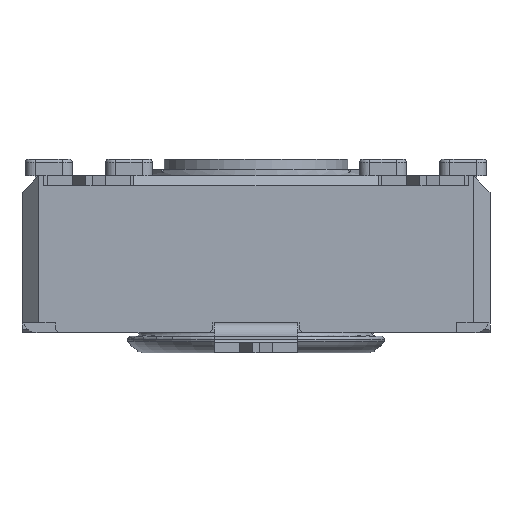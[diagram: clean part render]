
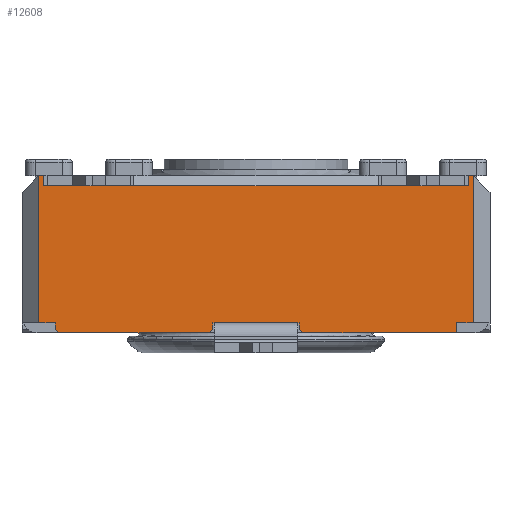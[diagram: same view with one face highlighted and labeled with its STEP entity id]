
A CAD part, front view. The second image highlights one B-rep face of the part: STEP entity #12608.
In plain terms, the highlighted planar face has unit normal (0, -1, 0).
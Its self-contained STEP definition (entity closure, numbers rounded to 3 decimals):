
#656=FACE_OUTER_BOUND('',#1327,.T.);
#1327=EDGE_LOOP('',(#8391,#8392,#8393,#8394,#8395,#8396,#8397,#8398,#8399,
#8400,#8401,#8402,#8403,#8404,#8405,#8406,#8407,#8408,#8409,#8410,#8411,
#8412,#8413,#8414,#8415,#8416,#8417));
#2018=LINE('',#17944,#3511);
#2031=LINE('',#17978,#3524);
#2036=LINE('',#17988,#3529);
#2114=LINE('',#18149,#3607);
#2139=LINE('',#18200,#3632);
#2165=LINE('',#18264,#3658);
#2166=LINE('',#18266,#3659);
#2167=LINE('',#18268,#3660);
#2168=LINE('',#18269,#3661);
#2169=LINE('',#18271,#3662);
#2170=LINE('',#18273,#3663);
#2171=LINE('',#18275,#3664);
#2172=LINE('',#18277,#3665);
#2173=LINE('',#18278,#3666);
#2174=LINE('',#18280,#3667);
#2175=LINE('',#18282,#3668);
#2176=LINE('',#18284,#3669);
#2177=LINE('',#18286,#3670);
#2178=LINE('',#18288,#3671);
#2179=LINE('',#18290,#3672);
#2180=LINE('',#18292,#3673);
#2181=LINE('',#18294,#3674);
#2182=LINE('',#18296,#3675);
#2183=LINE('',#18297,#3676);
#2184=LINE('',#18299,#3677);
#2185=LINE('',#18301,#3678);
#2186=LINE('',#18302,#3679);
#3511=VECTOR('',#14397,10.);
#3524=VECTOR('',#14436,10.);
#3529=VECTOR('',#14441,10.);
#3607=VECTOR('',#14545,10.);
#3632=VECTOR('',#14586,10.);
#3658=VECTOR('',#14634,10.);
#3659=VECTOR('',#14635,10.);
#3660=VECTOR('',#14636,10.);
#3661=VECTOR('',#14637,10.);
#3662=VECTOR('',#14638,10.);
#3663=VECTOR('',#14639,10.);
#3664=VECTOR('',#14640,10.);
#3665=VECTOR('',#14641,10.);
#3666=VECTOR('',#14642,10.);
#3667=VECTOR('',#14643,10.);
#3668=VECTOR('',#14644,10.);
#3669=VECTOR('',#14645,10.);
#3670=VECTOR('',#14646,10.);
#3671=VECTOR('',#14647,10.);
#3672=VECTOR('',#14648,10.);
#3673=VECTOR('',#14649,10.);
#3674=VECTOR('',#14650,10.);
#3675=VECTOR('',#14651,10.);
#3676=VECTOR('',#14652,10.);
#3677=VECTOR('',#14653,10.);
#3678=VECTOR('',#14654,10.);
#3679=VECTOR('',#14655,10.);
#4991=VERTEX_POINT('',#17922);
#4999=VERTEX_POINT('',#17943);
#5007=VERTEX_POINT('',#17977);
#5011=VERTEX_POINT('',#17985);
#5012=VERTEX_POINT('',#17987);
#5081=VERTEX_POINT('',#18146);
#5082=VERTEX_POINT('',#18148);
#5099=VERTEX_POINT('',#18197);
#5100=VERTEX_POINT('',#18199);
#5127=VERTEX_POINT('',#18263);
#5128=VERTEX_POINT('',#18265);
#5129=VERTEX_POINT('',#18267);
#5130=VERTEX_POINT('',#18270);
#5131=VERTEX_POINT('',#18272);
#5132=VERTEX_POINT('',#18274);
#5133=VERTEX_POINT('',#18276);
#5134=VERTEX_POINT('',#18279);
#5135=VERTEX_POINT('',#18281);
#5136=VERTEX_POINT('',#18283);
#5137=VERTEX_POINT('',#18285);
#5138=VERTEX_POINT('',#18287);
#5139=VERTEX_POINT('',#18289);
#5140=VERTEX_POINT('',#18291);
#5141=VERTEX_POINT('',#18293);
#5142=VERTEX_POINT('',#18295);
#5143=VERTEX_POINT('',#18298);
#5144=VERTEX_POINT('',#18300);
#6238=EDGE_CURVE('',#4991,#4999,#2018,.T.);
#6255=EDGE_CURVE('',#5007,#4991,#2031,.T.);
#6260=EDGE_CURVE('',#5012,#5011,#2036,.T.);
#6340=EDGE_CURVE('',#5082,#5081,#2114,.T.);
#6365=EDGE_CURVE('',#5100,#5099,#2139,.T.);
#6397=EDGE_CURVE('',#5081,#5127,#2165,.T.);
#6398=EDGE_CURVE('',#5127,#5128,#2166,.T.);
#6399=EDGE_CURVE('',#5128,#5129,#2167,.T.);
#6400=EDGE_CURVE('',#5012,#5129,#2168,.T.);
#6401=EDGE_CURVE('',#5011,#5130,#2169,.T.);
#6402=EDGE_CURVE('',#5131,#5130,#2170,.T.);
#6403=EDGE_CURVE('',#5131,#5132,#2171,.T.);
#6404=EDGE_CURVE('',#5133,#5132,#2172,.T.);
#6405=EDGE_CURVE('',#5007,#5133,#2173,.T.);
#6406=EDGE_CURVE('',#4999,#5134,#2174,.T.);
#6407=EDGE_CURVE('',#5134,#5135,#2175,.T.);
#6408=EDGE_CURVE('',#5136,#5135,#2176,.T.);
#6409=EDGE_CURVE('',#5136,#5137,#2177,.T.);
#6410=EDGE_CURVE('',#5137,#5138,#2178,.T.);
#6411=EDGE_CURVE('',#5138,#5139,#2179,.T.);
#6412=EDGE_CURVE('',#5140,#5139,#2180,.T.);
#6413=EDGE_CURVE('',#5140,#5141,#2181,.T.);
#6414=EDGE_CURVE('',#5141,#5142,#2182,.T.);
#6415=EDGE_CURVE('',#5142,#5100,#2183,.T.);
#6416=EDGE_CURVE('',#5099,#5143,#2184,.T.);
#6417=EDGE_CURVE('',#5144,#5143,#2185,.T.);
#6418=EDGE_CURVE('',#5144,#5082,#2186,.T.);
#8391=ORIENTED_EDGE('',*,*,#6340,.T.);
#8392=ORIENTED_EDGE('',*,*,#6397,.T.);
#8393=ORIENTED_EDGE('',*,*,#6398,.T.);
#8394=ORIENTED_EDGE('',*,*,#6399,.T.);
#8395=ORIENTED_EDGE('',*,*,#6400,.F.);
#8396=ORIENTED_EDGE('',*,*,#6260,.T.);
#8397=ORIENTED_EDGE('',*,*,#6401,.T.);
#8398=ORIENTED_EDGE('',*,*,#6402,.F.);
#8399=ORIENTED_EDGE('',*,*,#6403,.T.);
#8400=ORIENTED_EDGE('',*,*,#6404,.F.);
#8401=ORIENTED_EDGE('',*,*,#6405,.F.);
#8402=ORIENTED_EDGE('',*,*,#6255,.T.);
#8403=ORIENTED_EDGE('',*,*,#6238,.T.);
#8404=ORIENTED_EDGE('',*,*,#6406,.T.);
#8405=ORIENTED_EDGE('',*,*,#6407,.T.);
#8406=ORIENTED_EDGE('',*,*,#6408,.F.);
#8407=ORIENTED_EDGE('',*,*,#6409,.T.);
#8408=ORIENTED_EDGE('',*,*,#6410,.T.);
#8409=ORIENTED_EDGE('',*,*,#6411,.T.);
#8410=ORIENTED_EDGE('',*,*,#6412,.F.);
#8411=ORIENTED_EDGE('',*,*,#6413,.T.);
#8412=ORIENTED_EDGE('',*,*,#6414,.T.);
#8413=ORIENTED_EDGE('',*,*,#6415,.T.);
#8414=ORIENTED_EDGE('',*,*,#6365,.T.);
#8415=ORIENTED_EDGE('',*,*,#6416,.T.);
#8416=ORIENTED_EDGE('',*,*,#6417,.F.);
#8417=ORIENTED_EDGE('',*,*,#6418,.T.);
#11889=PLANE('',#13325);
#12608=ADVANCED_FACE('',(#656),#11889,.T.);
#13325=AXIS2_PLACEMENT_3D('',#18262,#14632,#14633);
#14397=DIRECTION('',(1.,0.,0.));
#14436=DIRECTION('',(1.,0.,0.));
#14441=DIRECTION('',(1.,0.,0.));
#14545=DIRECTION('',(-1.,0.,0.));
#14586=DIRECTION('',(-1.,0.,0.));
#14632=DIRECTION('center_axis',(0.,-1.,0.));
#14633=DIRECTION('ref_axis',(0.,0.,-1.));
#14634=DIRECTION('',(-1.,0.,0.));
#14635=DIRECTION('',(0.,0.,1.));
#14636=DIRECTION('',(-1.,0.,0.));
#14637=DIRECTION('',(0.,0.,1.));
#14638=DIRECTION('',(0.,0.,-1.));
#14639=DIRECTION('',(-0.707,0.,0.707));
#14640=DIRECTION('',(1.,0.,0.));
#14641=DIRECTION('',(-0.707,0.,-0.707));
#14642=DIRECTION('',(0.,0.,-1.));
#14643=DIRECTION('',(1.,0.,0.));
#14644=DIRECTION('',(0.,0.,-1.));
#14645=DIRECTION('',(-0.707,0.,0.707));
#14646=DIRECTION('',(1.,0.,0.));
#14647=DIRECTION('',(0.,0.,1.));
#14648=DIRECTION('',(1.,0.,0.));
#14649=DIRECTION('',(0.,0.,-1.));
#14650=DIRECTION('',(-1.,0.,0.));
#14651=DIRECTION('',(0.,0.,-1.));
#14652=DIRECTION('',(-1.,0.,0.));
#14653=DIRECTION('',(-1.,0.,0.));
#14654=DIRECTION('',(1.,0.,0.));
#14655=DIRECTION('',(-1.,0.,0.));
#17922=CARTESIAN_POINT('',(-8.717,-9.898,0.));
#17943=CARTESIAN_POINT('',(-6.217,-9.898,0.));
#17944=CARTESIAN_POINT('',(-14.467,-9.898,0.));
#17977=CARTESIAN_POINT('',(-8.767,-9.898,0.));
#17978=CARTESIAN_POINT('',(-14.467,-9.898,0.));
#17985=CARTESIAN_POINT('',(-13.467,-9.898,0.));
#17987=CARTESIAN_POINT('',(-13.967,-9.898,0.));
#17988=CARTESIAN_POINT('',(-7.245,-9.898,0.));
#18146=CARTESIAN_POINT('',(-13.717,-9.898,4.1));
#18148=CARTESIAN_POINT('',(-11.217,-9.898,4.1));
#18149=CARTESIAN_POINT('',(-6.467,-9.898,4.1));
#18197=CARTESIAN_POINT('',(-3.717,-9.898,4.1));
#18199=CARTESIAN_POINT('',(-1.217,-9.898,4.1));
#18200=CARTESIAN_POINT('',(-1.467,-9.898,4.1));
#18262=CARTESIAN_POINT('Origin',(-0.467,-9.898,0.));
#18263=CARTESIAN_POINT('',(-13.817,-9.898,4.1));
#18264=CARTESIAN_POINT('',(-3.944,-9.898,4.1));
#18265=CARTESIAN_POINT('',(-13.817,-9.898,4.4));
#18266=CARTESIAN_POINT('',(-13.817,-9.898,2.2));
#18267=CARTESIAN_POINT('',(-13.967,-9.898,4.4));
#18268=CARTESIAN_POINT('',(-14.467,-9.898,4.4));
#18269=CARTESIAN_POINT('',(-13.967,-9.898,0.));
#18270=CARTESIAN_POINT('',(-13.467,-9.898,-0.2));
#18271=CARTESIAN_POINT('',(-13.467,-9.898,-0.15));
#18272=CARTESIAN_POINT('',(-13.367,-9.898,-0.3));
#18273=CARTESIAN_POINT('',(-10.242,-9.898,-3.425));
#18274=CARTESIAN_POINT('',(-8.867,-9.898,-0.3));
#18275=CARTESIAN_POINT('',(-0.467,-9.898,-0.3));
#18276=CARTESIAN_POINT('',(-8.767,-9.898,-0.2));
#18277=CARTESIAN_POINT('',(-6.667,-9.898,1.9));
#18278=CARTESIAN_POINT('',(-8.767,-9.898,0.));
#18279=CARTESIAN_POINT('',(-6.167,-9.898,0.));
#18280=CARTESIAN_POINT('',(-14.467,-9.898,0.));
#18281=CARTESIAN_POINT('',(-6.167,-9.898,-0.2));
#18282=CARTESIAN_POINT('',(-6.167,-9.898,0.));
#18283=CARTESIAN_POINT('',(-6.067,-9.898,-0.3));
#18284=CARTESIAN_POINT('',(-4.767,-9.898,-1.6));
#18285=CARTESIAN_POINT('',(-1.467,-9.898,-0.3));
#18286=CARTESIAN_POINT('',(-0.467,-9.898,-0.3));
#18287=CARTESIAN_POINT('',(-1.467,-9.898,0.));
#18288=CARTESIAN_POINT('',(-1.467,-9.898,-0.15));
#18289=CARTESIAN_POINT('',(-0.967,-9.898,0.));
#18290=CARTESIAN_POINT('',(-0.646,-9.898,0.));
#18291=CARTESIAN_POINT('',(-0.967,-9.898,4.4));
#18292=CARTESIAN_POINT('',(-0.967,-9.898,0.));
#18293=CARTESIAN_POINT('',(-1.117,-9.898,4.4));
#18294=CARTESIAN_POINT('',(-14.467,-9.898,4.4));
#18295=CARTESIAN_POINT('',(-1.117,-9.898,4.1));
#18296=CARTESIAN_POINT('',(-1.117,-9.898,2.2));
#18297=CARTESIAN_POINT('',(-1.862,-9.898,4.1));
#18298=CARTESIAN_POINT('',(-3.817,-9.898,4.1));
#18299=CARTESIAN_POINT('',(-1.862,-9.898,4.1));
#18300=CARTESIAN_POINT('',(-11.117,-9.898,4.1));
#18301=CARTESIAN_POINT('',(-3.967,-9.898,4.1));
#18302=CARTESIAN_POINT('',(-3.944,-9.898,4.1));
